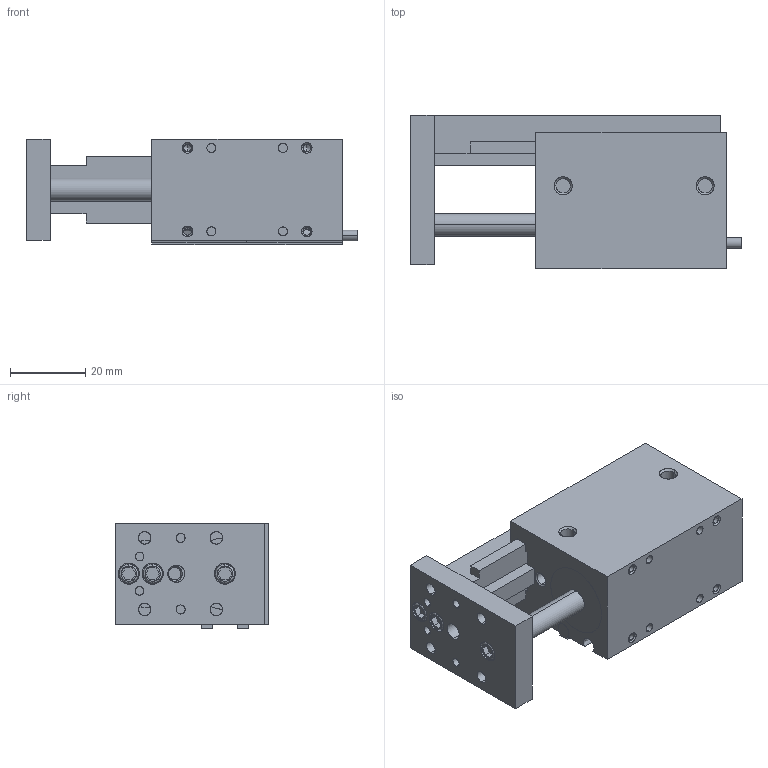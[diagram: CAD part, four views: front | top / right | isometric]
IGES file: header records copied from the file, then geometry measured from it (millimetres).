
Start section: SolidWorks IGES file using analytic representation for surfaces
Global section: file name: C:\Users\jmkuhnes\Pictures\My Transfers\AGMS\AGMS-2-2\AGMS-2-2 EXTENDED in MM.IGS; native system: SolidWorks 2013; preprocessor: SolidWorks 2013; author: jmkuhnes; date: 141106.094514; units: millimetre
Bounding box: 88.15 x 40.84 x 28.2 mm (x, y, z)
Surface area: 24210.5 mm2 (no closed solid volume)
Topology: 0 solids, 0 shells, 315 faces, 4750 edges, 4738 vertices
Faces by surface type: revolution 172, bspline 143
